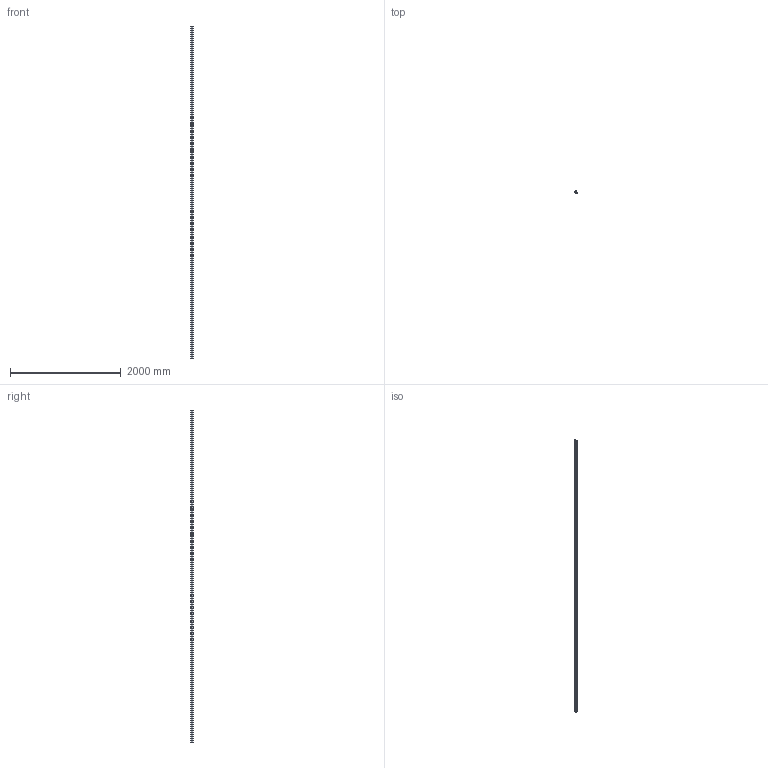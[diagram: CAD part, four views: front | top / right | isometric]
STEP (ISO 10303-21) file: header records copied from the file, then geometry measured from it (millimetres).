
FILE_DESCRIPTION (( 'STEP AP214' ), '1' );
FILE_NAME ('30x45 Degree Slot 8.STEP', '2017-08-10T00:47:08', ( 'Ahmed' ), ( '' ), 'SwSTEP 2.0', 'SolidWorks 2016', '' );
FILE_SCHEMA (( 'AUTOMOTIVE_DESIGN' ));
Length unit declared in the file: millimetre
Products named in the file (2): 30x45 Degree Slot 8
Bounding box: 38.23 x 41.9 x 6000 mm (x, y, z)
Volume: 2097983.7 mm3; surface area: 2266807.8 mm2
Topology: 1 solids, 1 shells, 174 faces, 495 edges, 330 vertices
Faces by surface type: plane 91, cylinder 51, bspline 32
Entity records: 12439 total; most frequent: CARTESIAN_POINT 8026, ORIENTED_EDGE 990, DIRECTION 808, EDGE_CURVE 495, VERTEX_POINT 330, AXIS2_PLACEMENT_3D 284, LINE 240, VECTOR 240
